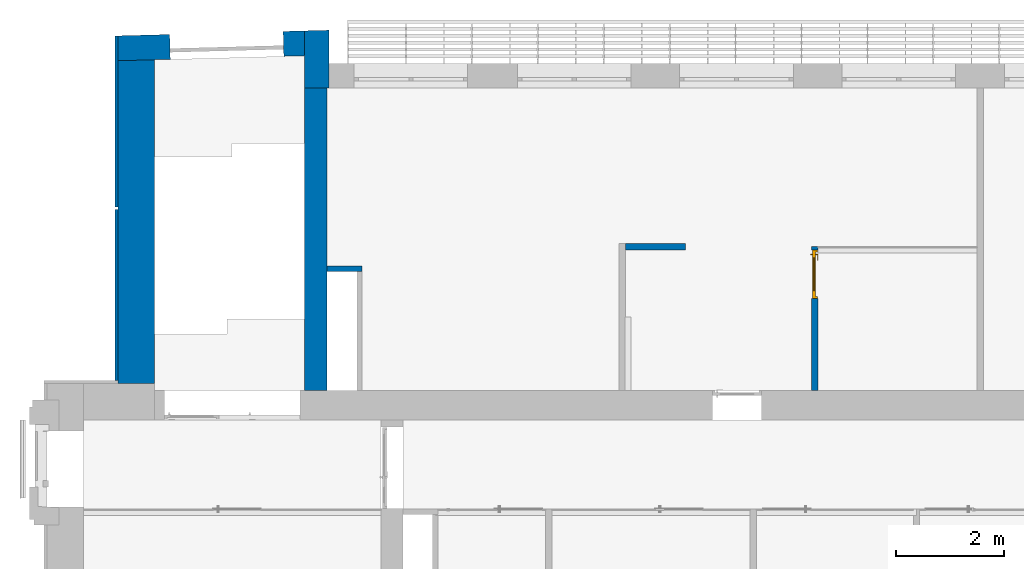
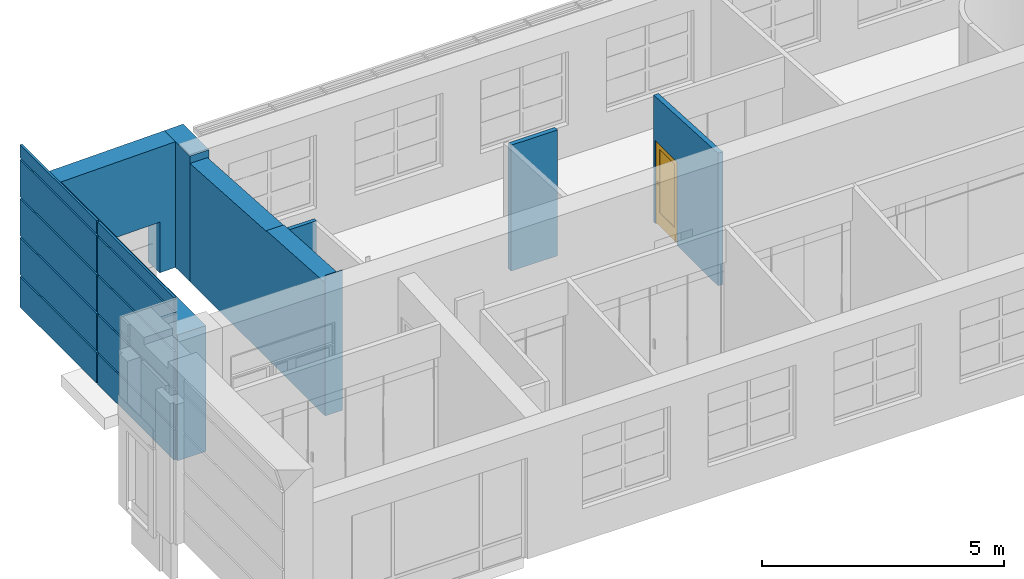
# One storey, part 25 of 46: 8 walls, 1 door, 2 openings.
"""IFC2X3 building model written with IfcOpenShell, lengths in millimetres."""

import ifcopenshell
import ifcopenshell.guid

model = None  # the IFC model being written
_history = None  # IfcOwnerHistory: only IFC2X3 demands one
_inside = {}  # id of a spatial element -> (the spatial element, [elements in it])
_under = {}  # id of a project, library or spatial element -> (it, [spatial elements below it])
_declared = {}  # id of a project -> (the project, [libraries it declares])
_typed = {}  # id of a type object -> (the type object, [elements of that type])
_made_of = {}  # id of a material, layer set ... -> (it, [elements and type objects made of it])


def new_model(schema):
    """Start an empty IFC model of exactly this schema.

    Asked for "IFC4X3", IfcOpenShell would pick the latest addendum, in which some entities
    have other attributes; the version numbers below select the first issue.
    IFC2X3 requires an IfcOwnerHistory on every rooted entity: one is made here for all.
    """
    global model, _history
    if schema == "IFC4X3":
        model = ifcopenshell.file(schema_version=(4, 3, 0, 0))
    else:
        model = ifcopenshell.file(schema=schema)
    _inside.clear()
    _under.clear()
    _declared.clear()
    _typed.clear()
    _made_of.clear()
    _history = None
    if model.schema == "IFC2X3":
        org = make("IfcOrganization", Name="unknown")
        user = make(
            "IfcPersonAndOrganization",
            ThePerson=make("IfcPerson", FamilyName="unknown"),
            TheOrganization=org,
        )
        app = make(
            "IfcApplication",
            ApplicationDeveloper=org,
            Version="unknown",
            ApplicationFullName="unknown",
            ApplicationIdentifier="unknown",
        )
        _history = make(
            "IfcOwnerHistory",
            OwningUser=user,
            OwningApplication=app,
            ChangeAction="ADDED",
            CreationDate=0,
        )
    return model


def make(cls, **values):
    """One entity of the class cls with the attributes given. An attribute that is None is left unset."""
    return model.create_entity(
        cls, **{name: value for name, value in values.items() if value is not None}
    )


def entity(cls, *values):
    """Any entity or typed value of the class cls, its attributes in the order of the schema. None: left unset."""
    e = model.create_entity(cls)
    for i, value in enumerate(values):
        if value is not None:
            e[i] = value
    return e


def rooted(cls, **values):
    """An entity with a GlobalId (a new one), such as an element, a storey or a relation."""
    return make(cls, GlobalId=ifcopenshell.guid.new(), OwnerHistory=_history, **values)


def si_unit(unit_type, name, prefix=None):
    """IfcSIUnit, for example si_unit("LENGTHUNIT", "METRE", prefix="MILLI")."""
    return make("IfcSIUnit", UnitType=unit_type, Prefix=prefix, Name=name)


def converted_unit(unit_type, name, factor, base, dimensions=None, offset=None):
    """IfcConversionBasedUnit, such as the inch: factor (a typed value) times the base unit."""
    return make(
        "IfcConversionBasedUnit"
        if offset is None
        else "IfcConversionBasedUnitWithOffset",
        ConversionOffset=offset,
        Dimensions=None
        if dimensions is None
        else entity("IfcDimensionalExponents", *dimensions),
        UnitType=unit_type,
        Name=name,
        ConversionFactor=make(
            "IfcMeasureWithUnit", ValueComponent=factor, UnitComponent=base
        ),
    )


def derived_unit(unit_type, elements):
    """IfcDerivedUnit: a product of units, each with its exponent."""
    return make(
        "IfcDerivedUnit",
        Elements=[
            make("IfcDerivedUnitElement", Unit=unit, Exponent=power)
            for unit, power in elements
        ],
        UnitType=unit_type,
    )


def assignment(units):
    """IfcUnitAssignment: the units of a project."""
    return None if units is None else make("IfcUnitAssignment", Units=units)


def point(xyz):
    """IfcCartesianPoint."""
    return None if xyz is None else make("IfcCartesianPoint", Coordinates=xyz)


def direction(xyz):
    """IfcDirection."""
    return None if xyz is None else make("IfcDirection", DirectionRatios=xyz)


def frame(location, z_axis=None, x_axis=None):
    """IfcAxis2Placement3D, a coordinate frame: its origin and axes. An axis left out is left unset."""
    return make(
        "IfcAxis2Placement3D",
        Location=point(location),
        Axis=direction(z_axis),
        RefDirection=direction(x_axis),
    )


def frame_2d(location, x_axis=None):
    """IfcAxis2Placement2D, a coordinate frame in the plane: its origin and x axis."""
    return make(
        "IfcAxis2Placement2D", Location=point(location), RefDirection=direction(x_axis)
    )


def origin():
    """The frame at (0, 0, 0) with its axes left unset."""
    return frame((0.0, 0.0, 0.0))


def origin_2d_with_axis():
    """The frame at (0, 0) in the plane with the x axis (1, 0) written out."""
    return frame_2d((0.0, 0.0), x_axis=(1.0, 0.0))


def place(relative_to, where):
    """IfcLocalPlacement: puts the frame where relative to a parent placement (None: the world)."""
    return make(
        "IfcLocalPlacement", PlacementRelTo=relative_to, RelativePlacement=where
    )


def context(
    kind, dimensions, precision=None, world=None, true_north=None, identifier=None
):
    """IfcGeometricRepresentationContext, for example the 3D "Model" context."""
    return make(
        "IfcGeometricRepresentationContext",
        ContextIdentifier=identifier,
        ContextType=kind,
        CoordinateSpaceDimension=dimensions,
        Precision=precision,
        WorldCoordinateSystem=world,
        TrueNorth=true_north,
    )


def subcontext(parent, identifier, kind, view, scale=None):
    """IfcGeometricRepresentationSubContext, for example "Body" below "Model"."""
    return make(
        "IfcGeometricRepresentationSubContext",
        ContextIdentifier=identifier,
        ContextType=kind,
        ParentContext=parent,
        TargetScale=scale,
        TargetView=view,
    )


def project(units=None, contexts=None):
    """IfcProject with its units and contexts."""
    return rooted(
        "IfcProject",
        Name="project",
        RepresentationContexts=contexts,
        UnitsInContext=assignment(units),
    )


def spatial(cls, under=None, at=None, **own):
    """A site, building, storey or space (cls), placed at a placement, below another one or the project."""
    s = rooted(cls, ObjectPlacement=at, **own)
    if under is not None:
        _under.setdefault(under.id(), (under, []))[1].append(s)
    return s


def polyline(points):
    """IfcPolyline through the points."""
    return make("IfcPolyline", Points=[point(p) for p in points])


def profile(cls, at=None, kind="AREA", **sizes):
    """A parametric profile (cls). Its sizes go by their IFC names, for example OverallWidth=200.0."""
    return make(cls, ProfileType=kind, Position=at, **sizes)


def rectangle(**sizes):
    """IfcRectangleProfileDef."""
    return profile("IfcRectangleProfileDef", **sizes)


def outline(outer, holes=None, kind="AREA"):
    """IfcArbitraryClosedProfileDef: a profile drawn as a closed curve; with holes, ...WithVoids."""
    if holes is None:
        return make("IfcArbitraryClosedProfileDef", ProfileType=kind, OuterCurve=outer)
    return make(
        "IfcArbitraryProfileDefWithVoids",
        ProfileType=kind,
        OuterCurve=outer,
        InnerCurves=holes,
    )


def extrude(swept, where, along, depth):
    """IfcExtrudedAreaSolid: the profile swept, set in the frame where, extruded along a direction by depth."""
    return make(
        "IfcExtrudedAreaSolid",
        SweptArea=swept,
        Position=where,
        ExtrudedDirection=direction(along),
        Depth=depth,
    )


def clip(a, b, op="DIFFERENCE"):
    """IfcBooleanClippingResult: the solid a cut by the half space b."""
    return make(
        "IfcBooleanClippingResult", Operator=op, FirstOperand=a, SecondOperand=b
    )


def halfspace(plane, agree):
    """IfcHalfSpaceSolid: all space on one side of the plane z = 0 of the frame plane."""
    return make(
        "IfcHalfSpaceSolid",
        BaseSurface=make("IfcPlane", Position=plane),
        AgreementFlag=agree,
    )


def bounded_halfspace(plane, agree, where, boundary):
    """IfcPolygonalBoundedHalfSpace: a half space limited to a polygon's prism."""
    return make(
        "IfcPolygonalBoundedHalfSpace",
        BaseSurface=make("IfcPlane", Position=plane),
        AgreementFlag=agree,
        Position=where,
        PolygonalBoundary=boundary,
    )


def faces_of(points, faces, orient=None, outer=None):
    """IfcFace entities. A face is a list of loops; a loop is a list of indices into points, from 0.

    orient and outer hold one flag for each loop. By default every Orientation is true, the
    first loop of a face is its IfcFaceOuterBound and the others are IfcFaceBound.
    """
    made = []
    for i, loops in enumerate(faces):
        bounds = []
        for j, loop in enumerate(loops):
            is_outer = j == 0 if outer is None else outer[i][j]
            bounds.append(
                make(
                    "IfcFaceOuterBound" if is_outer else "IfcFaceBound",
                    Bound=make("IfcPolyLoop", Polygon=[points[k] for k in loop]),
                    Orientation=True if orient is None else orient[i][j],
                )
            )
        made.append(make("IfcFace", Bounds=bounds))
    return made


def faceted_brep(points, faces, orient=None, outer=None, voids=None):
    """IfcFacetedBrep: a solid bounded by flat faces; with voids (closed shells), ...WithVoids."""
    shared = [point(p) for p in points]
    hull = make("IfcClosedShell", CfsFaces=faces_of(shared, faces, orient, outer))
    if voids is None:
        return make("IfcFacetedBrep", Outer=hull)
    return make(
        "IfcFacetedBrepWithVoids",
        Outer=hull,
        Voids=[
            make(cls, CfsFaces=faces_of(shared, fs, o, b)) for cls, fs, o, b in voids
        ],
    )


def shape(context_of_items, identifier, shape_type, items):
    """IfcShapeRepresentation: the items that make up one representation, for example the "Body"."""
    return make(
        "IfcShapeRepresentation",
        ContextOfItems=context_of_items,
        RepresentationIdentifier=identifier,
        RepresentationType=shape_type,
        Items=items,
    )


def source(mapping_origin, context_of_items, identifier, shape_type, items):
    """IfcRepresentationMap: a shape defined once, which mapped items show again and again."""
    return make(
        "IfcRepresentationMap",
        MappingOrigin=mapping_origin,
        MappedRepresentation=shape(context_of_items, identifier, shape_type, items),
    )


def transform(
    local_origin,
    x_axis=None,
    y_axis=None,
    z_axis=None,
    scale=None,
    scale2=None,
    scale3=None,
    uniform=True,
):
    """IfcCartesianTransformationOperator3D, or its non-uniform kind. x_axis, y_axis, z_axis: its Axis1, 2, 3."""
    if uniform:
        return make(
            "IfcCartesianTransformationOperator3D",
            Axis1=direction(x_axis),
            Axis2=direction(y_axis),
            LocalOrigin=point(local_origin),
            Scale=scale,
            Axis3=direction(z_axis),
        )
    return make(
        "IfcCartesianTransformationOperator3DnonUniform",
        Axis1=direction(x_axis),
        Axis2=direction(y_axis),
        LocalOrigin=point(local_origin),
        Scale=scale,
        Axis3=direction(z_axis),
        Scale2=scale2,
        Scale3=scale3,
    )


def mapped(mapping_source, mapping_target):
    """IfcMappedItem: shows the shape of a source again, moved by a transform."""
    return make(
        "IfcMappedItem", MappingSource=mapping_source, MappingTarget=mapping_target
    )


def material(Name=None, Category=None):
    """IfcMaterial."""
    return make("IfcMaterial", Name=Name, Category=Category)


def material_list(materials):
    """IfcMaterialList."""
    return make("IfcMaterialList", Materials=materials)


def layer(
    of_material, thickness, ventilated=None, Name=None, Category=None, Priority=None
):
    """IfcMaterialLayer: one layer of a wall or slab, of a material (None: an air gap)."""
    return make(
        "IfcMaterialLayer",
        Material=of_material,
        LayerThickness=thickness,
        IsVentilated=ventilated,
        Name=Name,
        Category=Category,
        Priority=Priority,
    )


def layer_set(layers, Name=None):
    """IfcMaterialLayerSet."""
    return make("IfcMaterialLayerSet", MaterialLayers=layers, LayerSetName=Name)


def layer_usage(for_layer_set, set_direction, sense, offset, extent=None):
    """IfcMaterialLayerSetUsage: how a layer set lies in its element."""
    return make(
        "IfcMaterialLayerSetUsage",
        ForLayerSet=for_layer_set,
        LayerSetDirection=set_direction,
        DirectionSense=sense,
        OffsetFromReferenceLine=offset,
        ReferenceExtent=extent,
    )


def made_of(thing, what):
    """Note that an element or type object is made of a material, layer set ...; save() writes the relation."""
    if what is not None:
        _made_of.setdefault(what.id(), (what, []))[1].append(thing)
    return thing


def type_object(cls, material=None, **own):
    """A type object (cls), such as IfcWallType, which elements share."""
    return made_of(rooted(cls, **own), material)


def type_shapes(of_type, sources):
    """Give a type object the sources (RepresentationMaps) that its elements show as mapped items."""
    of_type.RepresentationMaps = sources


def element(
    cls,
    number,
    at=None,
    inside=None,
    cuts=None,
    type_object=None,
    material=None,
    context=None,
    identifier="Body",
    shape_type=None,
    held_by="IfcProductDefinitionShape",
    body=None,
    shapes=None,
    **own,
):
    """One element of the class cls, such as IfcWall. Its Tag is "e" and its number.

    at: its placement. inside: the storey or other place that contains it. cuts: it is an
    opening in that element (IfcRelVoidsElement). A single representation is given by context,
    identifier, shape_type and body (its items); several are given by shapes. held_by: the class
    of the entity that holds the representations. save() writes the other relations.
    """
    e = rooted(cls, Tag="e%d" % number, ObjectPlacement=at, **own)
    if body is not None:
        shapes = [shape(context, identifier, shape_type, body)]
    if shapes is not None:
        e.Representation = make(held_by, Representations=shapes)
    if inside is not None:
        _inside.setdefault(inside.id(), (inside, []))[1].append(e)
    if cuts is not None:
        rooted(
            "IfcRelVoidsElement", RelatingBuildingElement=cuts, RelatedOpeningElement=e
        )
    if type_object is not None:
        _typed.setdefault(type_object.id(), (type_object, []))[1].append(e)
    return made_of(e, material)


def fill(opening, filler):
    """IfcRelFillsElement: the door or window that sits in an opening."""
    return rooted(
        "IfcRelFillsElement",
        RelatingOpeningElement=opening,
        RelatedBuildingElement=filler,
    )


def aggregate(whole, parts):
    """IfcRelAggregates: a whole, such as a stair, and the parts it consists of."""
    return rooted("IfcRelAggregates", RelatingObject=whole, RelatedObjects=parts)


def save(model, path):
    """Write the relations noted so far, then the file.

    IfcRelAggregates (storeys below a building ...), IfcRelContainedInSpatialStructure (elements
    in a storey), IfcRelDefinesByType, IfcRelAssociatesMaterial and IfcRelDeclares: one each for
    every whole, place, type object, material and project.
    """
    for whole, parts in _under.values():
        aggregate(whole, parts)
    for where, things in _inside.values():
        rooted(
            "IfcRelContainedInSpatialStructure",
            RelatedElements=things,
            RelatingStructure=where,
        )
    for kind, things in _typed.values():
        rooted("IfcRelDefinesByType", RelatedObjects=things, RelatingType=kind)
    for what, things in _made_of.values():
        rooted("IfcRelAssociatesMaterial", RelatedObjects=things, RelatingMaterial=what)
    for by, libraries in _declared.values():
        rooted("IfcRelDeclares", RelatingContext=by, RelatedDefinitions=libraries)
    model.write(path)


model = new_model("IFC2X3")

# Units and contexts
model_context = context("Model", 3, precision=0.01, world=origin(), true_north=direction((6.12303176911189e-17, 1.0)))
body_context = subcontext(model_context, "Body", "Model", "MODEL_VIEW")
ifc_project = project(units=[si_unit("LENGTHUNIT", "METRE", prefix="MILLI"), si_unit("AREAUNIT", "SQUARE_METRE"), si_unit("VOLUMEUNIT", "CUBIC_METRE"), converted_unit("PLANEANGLEUNIT", "DEGREE", entity("IfcRatioMeasure", 0.0174532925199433), si_unit("PLANEANGLEUNIT", "RADIAN"), dimensions=[0, 0, 0, 0, 0, 0, 0]), si_unit("MASSUNIT", "GRAM", prefix="KILO"), derived_unit("MASSDENSITYUNIT", [(si_unit("MASSUNIT", "GRAM", prefix="KILO"), 1), (si_unit("LENGTHUNIT", "METRE"), -3)]), si_unit("TIMEUNIT", "SECOND"), si_unit("FREQUENCYUNIT", "HERTZ"), si_unit("THERMODYNAMICTEMPERATUREUNIT", "DEGREE_CELSIUS"), derived_unit("THERMALTRANSMITTANCEUNIT", [(si_unit("MASSUNIT", "GRAM", prefix="KILO"), 1), (si_unit("THERMODYNAMICTEMPERATUREUNIT", "KELVIN"), -1), (si_unit("TIMEUNIT", "SECOND"), -3)]), derived_unit("VOLUMETRICFLOWRATEUNIT", [(si_unit("LENGTHUNIT", "METRE"), 3), (si_unit("TIMEUNIT", "SECOND"), -1)]), si_unit("ELECTRICCURRENTUNIT", "AMPERE"), si_unit("ELECTRICVOLTAGEUNIT", "VOLT"), si_unit("POWERUNIT", "WATT"), si_unit("FORCEUNIT", "NEWTON", prefix="KILO"), si_unit("ILLUMINANCEUNIT", "LUX"), si_unit("LUMINOUSFLUXUNIT", "LUMEN"), si_unit("LUMINOUSINTENSITYUNIT", "CANDELA"), derived_unit("USERDEFINED", [(si_unit("MASSUNIT", "GRAM", prefix="KILO"), -1), (si_unit("LENGTHUNIT", "METRE"), -2), (si_unit("TIMEUNIT", "SECOND"), 3), (si_unit("LUMINOUSFLUXUNIT", "LUMEN"), 1)]), derived_unit("LINEARVELOCITYUNIT", [(si_unit("LENGTHUNIT", "METRE"), 1), (si_unit("TIMEUNIT", "SECOND"), -1)]), si_unit("PRESSUREUNIT", "PASCAL"), derived_unit("USERDEFINED", [(si_unit("LENGTHUNIT", "METRE"), -2), (si_unit("MASSUNIT", "GRAM", prefix="KILO"), 1), (si_unit("TIMEUNIT", "SECOND"), -2)])], contexts=[model_context])

# Site, building, storey
site_placement = place(None, frame((-151.875543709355, 2715.0, 0.0)))
site = spatial("IfcSite", under=ifc_project, at=site_placement, Name="Surface", CompositionType="ELEMENT")
building_placement = place(site_placement, origin())
building = spatial("IfcBuilding", under=site, at=building_placement, CompositionType="ELEMENT")
storey_placement = place(building_placement, frame((0.0, 0.0, 10060.0)))
storey = spatial("IfcBuildingStorey", under=building, at=storey_placement, Name="4 korrus", CompositionType="ELEMENT", Elevation=10060.0000000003)

# Wall
ifc_material_1 = material(Name="__Kips GN13_tava")
ifc_layer_1 = layer(ifc_material_1, 20.0)
ifc_material_2 = material(Name="Brick, Common")
ifc_layer_2 = layer(ifc_material_2, 380.0)
ifc_layer_3 = layer(ifc_material_1, 20.0)
ifc_layer_set_1 = layer_set([ifc_layer_1, ifc_layer_2, ifc_layer_3], Name="Basic Wall:SS-1_420mm")
ifc_layer_usage_1 = layer_usage(ifc_layer_set_1, "AXIS2", "NEGATIVE", 210.0)
wall_type_1 = type_object("IfcWallType", Name="Basic Wall:SS-1_420mm", PredefinedType="STANDARD", material=ifc_layer_set_1)
wall_1_placement = place(storey_placement, frame((4750.87292934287, 12150.0, 0.0), z_axis=(0.0, 0.0, 1.0), x_axis=(0.0, -1.0, 0.0)))
element("IfcWallStandardCase", 1, at=wall_1_placement, inside=storey, type_object=wall_type_1, material=ifc_layer_usage_1, Name="SEIN - 005", ObjectType="Basic Wall:SS-1_420mm", context=body_context, shape_type="Clipping", body=[
    clip(clip(extrude(rectangle(XDim=5590.0, YDim=419.999999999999, at=frame_2d((2795.0, -2.27373675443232e-13), x_axis=(-1.0, 0.0))), origin(), (0.0, 0.0, 1.0), 3540.0), bounded_halfspace(frame((0.0, -210.0, 2988.23263053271), z_axis=(-0.0638356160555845, 0.0, 0.997960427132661), x_axis=(0.0, -1.0, 0.0)), False, frame((0.0, -210.0, 2988.23263053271)), polyline([(0.0, 0.0), (3160.0, 0.0), (3160.0, 420.0), (0.0, 420.0), (0.0, 0.0)]))), bounded_halfspace(frame((3160.0, -210.0, 3207.89214529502), z_axis=(-0.0638356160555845, 0.0, 0.997960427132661), x_axis=(0.0, -1.0, 0.0)), False, frame((3160.0, -210.0, 3207.89214529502)), polyline([(0.0, 0.0), (2416.04772067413, 0.0), (2416.04772067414, 420.0), (230.0, 420.0), (0.0, 420.0), (0.0, 0.0)]))),
])

# Wall, opening
ifc_layer_4 = layer(ifc_material_2, 440.0)
ifc_layer_5 = layer(ifc_material_1, 20.0)
ifc_layer_set_2 = layer_set([ifc_layer_4, ifc_layer_5], Name="Basic Wall:VS-1")
ifc_layer_usage_2 = layer_usage(ifc_layer_set_2, "AXIS2", "NEGATIVE", 230.0)
wall_type_2 = type_object("IfcWallType", Name="Basic Wall:VS-1", PredefinedType="STANDARD", material=ifc_layer_set_2)
wall_2_placement = place(storey_placement, frame((1084.82025900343, 12886.4674488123, 0.0), z_axis=(0.0, 0.0, 1.0), x_axis=(0.999638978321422, 0.0268684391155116, 0.0)))
wall_2 = element("IfcWallStandardCase", 2, at=wall_2_placement, inside=storey, type_object=wall_type_2, material=ifc_layer_usage_2, Name="SEIN - 004", ObjectType="Basic Wall:VS-1", context=body_context, shape_type="SweptSolid", body=[
    extrude(outline(polyline([(0.0, -230.0), (679.245222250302, -230.0), (3450.32003918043, -230.0), (3462.68398482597, 230.0), (12.363945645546, 230.0), (0.0, -230.0)])), origin(), (0.0, 0.0, 1.0), 3173.94120006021),
])
opening_1_placement = place(wall_2_placement, frame((-1430.66788143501, -12852.6677276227, 0.0), z_axis=(0.0, 0.0, 1.0), x_axis=(0.999638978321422, -0.0268684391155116, 0.0)))
element("IfcOpeningElement", 3, at=opening_1_placement, cuts=wall_2, Name="SEIN - 004", ObjectType="Opening", context=body_context, shape_type="SweptSolid", body=[
    extrude(rectangle(XDim=1850.0, YDim=2100.0, at=frame_2d((0.0, 1.13686837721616e-13), x_axis=(1.0, 0.0))), frame((3124.83901111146, 12245.1480382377, 356.01247787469), z_axis=(-0.0268684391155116, 0.999638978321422, 0.0), x_axis=(0.0, 0.0, -1.0)), (0.0, 0.0, 1.0), 1393.8),
])

# Walls
ifc_layer_usage_3 = layer_usage(ifc_layer_set_2, "AXIS2", "NEGATIVE", 230.0)
wall_3_placement = place(storey_placement, frame((4770.07439884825, 13221.7852732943, 0.0), z_axis=(0.0, 0.0, 1.0), x_axis=(0.0, -1.0, 0.0)))
element("IfcWallStandardCase", 4, at=wall_3_placement, inside=storey, type_object=wall_type_2, material=ifc_layer_usage_3, Name="SEIN - 003", ObjectType="Basic Wall:VS-1", context=body_context, shape_type="SweptSolid", body=[
    extrude(outline(polyline([(1071.7852732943, -230.0), (1071.7852732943, 230.0), (611.785273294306, 230.0), (0.0, 230.0), (12.3639456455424, -230.0), (472.530075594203, -230.0), (1071.7852732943, -230.0)])), origin(), (0.0, 0.0, 1.0), 3173.94120006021),
])
ifc_material_3 = material(Name="__Tuuletõkkeplaat")
ifc_layer_6 = layer(ifc_material_3, 9.0)
ifc_material_4 = material(Name="__Soojustus EPS")
ifc_layer_7 = layer(ifc_material_4, 200.0)
ifc_layer_8 = layer(ifc_material_2, 450.0)
ifc_layer_9 = layer(ifc_material_1, 20.0)
ifc_layer_set_3 = layer_set([ifc_layer_6, ifc_layer_7, ifc_layer_8, ifc_layer_9], Name="Basic Wall:VS-2_olemasolev sein fassaadikassettidega")
ifc_layer_usage_4 = layer_usage(ifc_layer_set_3, "AXIS2", "NEGATIVE", 339.5)
wall_type_3 = type_object("IfcWallType", Name="Basic Wall:VS-2_olemasolev sein fassaadikassettidega", PredefinedType="STANDARD", material=ifc_layer_set_3)
wall_4_placement = place(storey_placement, frame((1430.5, 6689.0, 0.0), z_axis=(0.0, 0.0, 1.0), x_axis=(0.0, 1.0, 0.0)))
element("IfcWallStandardCase", 5, at=wall_4_placement, inside=storey, type_object=wall_type_3, material=ifc_layer_usage_4, Name="SEIN - 003", ObjectType="Basic Wall:VS-2_olemasolev sein fassaadikassettidega", context=body_context, shape_type="SweptSolid", body=[
    extrude(outline(polyline([(5985.80074269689, -339.5), (5967.55048379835, 339.5), (0.0, 339.5), (0.0, -339.5), (5985.80074269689, -339.5)])), origin(), (0.0, 0.0, 1.0), 3173.94120006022),
])
ifc_layer_10 = layer(ifc_material_1, 12.5)
ifc_layer_11 = layer(ifc_material_1, 12.5)
ifc_layer_12 = layer(ifc_material_4, 66.0)
ifc_layer_13 = layer(ifc_material_1, 12.5)
ifc_layer_14 = layer(ifc_material_1, 12.5)
ifc_layer_set_4 = layer_set([ifc_layer_10, ifc_layer_11, ifc_layer_12, ifc_layer_13, ifc_layer_14], Name="Basic Wall:SS-3_Kipssein tava ruumide vahel")
ifc_layer_usage_5 = layer_usage(ifc_layer_set_4, "AXIS2", "NEGATIVE", 58.0)
wall_type_4 = type_object("IfcWallType", Name="Basic Wall:SS-3_Kipssein tava ruumide vahel", PredefinedType="STANDARD", material=ifc_layer_set_4)
wall_5_placement = place(storey_placement, frame((10480.666775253, 9218.0, 0.0)))
element("IfcWallStandardCase", 6, at=wall_5_placement, inside=storey, type_object=wall_type_4, material=ifc_layer_usage_5, Name="Basic Wall:SS-3_Kipssein tava ruumide vahel", ObjectType="Basic Wall:SS-3_Kipssein tava ruumide vahel", context=body_context, shape_type="Clipping", body=[
    clip(extrude(rectangle(XDim=1112.98220787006, YDim=116.0, at=frame_2d((556.491103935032, -2.70006239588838e-13), x_axis=(-1.0, 0.0))), origin(), (0.0, 0.0, 1.0), 3179.49120834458), bounded_halfspace(frame((0.0, -58.0, 3179.49120834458), z_axis=(0.0, 0.0638356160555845, 0.997960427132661), x_axis=(-1.0, 0.0, 0.0)), False, frame((0.0, -58.0, 3179.49120834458)), polyline([(0.0, 0.0), (1112.98220787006, 0.0), (1112.98220787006, 116.0), (0.0, 116.0), (0.0, 0.0)]))),
])

# Wall, opening, door
ifc_layer_usage_6 = layer_usage(ifc_layer_set_4, "AXIS2", "NEGATIVE", 58.0)
wall_6_placement = place(storey_placement, frame((13980.8820086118, 6560.0, 0.0), z_axis=(0.0, 0.0, 1.0), x_axis=(0.0, 1.0, 0.0)))
wall_6 = element("IfcWallStandardCase", 7, at=wall_6_placement, inside=storey, type_object=wall_type_4, material=ifc_layer_usage_6, Name="Basic Wall:SS-3_Kipssein tava ruumide vahel", ObjectType="Basic Wall:SS-3_Kipssein tava ruumide vahel", context=body_context, shape_type="Clipping", body=[
    clip(extrude(rectangle(XDim=2660.0011570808, YDim=116.0, at=frame_2d((1330.0005785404, -1.98951966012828e-13), x_axis=(-1.0, 0.0))), origin(), (0.0, 0.0, 1.0), 3348.6630901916), halfspace(frame((0.0, -58.0, 3348.6630901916), z_axis=(0.0534891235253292, 0.0, 0.998568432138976), x_axis=(0.0, 1.0, 0.0)), False)),
])
opening_2_placement = place(wall_6_placement, frame((1700.0011570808, -58.0, 0.0)))
opening_2 = element("IfcOpeningElement", 8, at=opening_2_placement, cuts=wall_6, Name="Ühepoolsed:SU-02:1", ObjectType="Opening", context=body_context, shape_type="SweptSolid", body=[
    extrude(rectangle(XDim=2099.99999999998, YDim=900.0, at=frame_2d((1049.99999999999, 450.0), x_axis=(1.0, 0.0))), frame((0.0, 0.0, 0.0), z_axis=(0.0, 1.0, 0.0), x_axis=(0.0, 0.0, 1.0)), (0.0, 0.0, 1.0), 116.0),
])
ifc_material_5 = material(Name="_Alumiiniumprofiil - must")
ifc_material_6 = material(Name="__Uks_hele tamm")
ifc_material_7 = material(Name="Glass")
ifc_material_list_1 = material_list([ifc_material_5, ifc_material_6, ifc_material_7])
ifc_material_list_2 = material_list([ifc_material_5, ifc_material_6, ifc_material_7])
door_style = type_object("IfcDoorStyle", Name="SU-02", ConstructionType="NOTDEFINED", OperationType="FOLDING_TO_LEFT", ParameterTakesPrecedence=False, Sizeable=False, material=ifc_material_list_2)
shared_shape = source(origin(), body_context, "Body", "Brep", [
    faceted_brep([(800.0, 6.0, 1112.5), (705.0, 6.0, 1112.5), (705.0, 1.0, 1112.5), (825.0, 1.0, 1112.5), (825.0, 44.0, 1112.5), (800.0, 44.0, 1112.5), (800.0, 6.0, 1087.5), (800.0, 44.0, 1087.5), (825.0, 44.0, 1087.5), (825.0, 1.0, 1087.5), (705.0, 1.0, 1087.5), (705.0, 6.0, 1087.5)], [[[0, 1, 2, 3, 4, 5]], [[6, 7, 8, 9, 10, 11]], [[5, 7, 6, 0]], [[4, 8, 7, 5]], [[3, 9, 8, 4]], [[2, 10, 9, 3]], [[1, 11, 10, 2]], [[0, 6, 11, 1]]]),
    faceted_brep([(787.500000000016, 44.0, 1137.5), (837.500000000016, 44.0, 1137.5), (837.500000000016, 46.0, 1137.5), (787.500000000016, 46.0, 1137.5), (787.500000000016, 44.0, 1017.5), (787.500000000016, 46.0, 1017.5), (837.500000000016, 46.0, 1017.5), (837.500000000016, 44.0, 1017.5)], [[[0, 1, 2, 3]], [[4, 5, 6, 7]], [[3, 5, 4, 0]], [[2, 6, 5, 3]], [[1, 7, 6, 2]], [[0, 4, 7, 1]]]),
    faceted_brep([(800.0, 136.0, 1112.5), (800.0, 98.0, 1112.5), (825.0, 98.0, 1112.5), (825.0, 141.0, 1112.5), (705.0, 141.0, 1112.5), (705.0, 136.0, 1112.5), (800.0, 136.0, 1087.5), (705.0, 136.0, 1087.5), (705.0, 141.0, 1087.5), (825.0, 141.0, 1087.5), (825.0, 98.0, 1087.5), (800.0, 98.0, 1087.5)], [[[0, 1, 2, 3, 4, 5]], [[6, 7, 8, 9, 10, 11]], [[1, 0, 6, 11]], [[2, 1, 11, 10]], [[3, 2, 10, 9]], [[4, 3, 9, 8]], [[5, 4, 8, 7]], [[0, 5, 7, 6]]]),
    faceted_brep([(787.500000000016, 98.0, 1137.5), (787.500000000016, 96.0, 1137.5), (837.500000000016, 96.0, 1137.5), (837.500000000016, 98.0, 1137.5), (787.500000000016, 98.0, 1017.5), (837.500000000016, 98.0, 1017.5), (837.500000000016, 96.0, 1017.5), (787.500000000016, 96.0, 1017.5)], [[[0, 1, 2, 3]], [[4, 5, 6, 7]], [[1, 0, 4, 7]], [[2, 1, 7, 6]], [[3, 2, 6, 5]], [[0, 3, 5, 4]]]),
    faceted_brep([(0.0, 6.0, 0.0), (0.0, 96.0, 0.0), (25.0, 96.0, 0.0), (25.0, 46.0, 0.0), (40.0, 46.0, 0.0), (40.0, 6.0, 0.0), (40.0, 6.0, 2060.0), (860.0, 6.0, 2060.0), (860.0, 6.0, 0.0), (900.0, 6.0, 0.0), (900.0, 6.0, 2100.0), (0.0, 6.0, 2100.0), (40.0, 46.0, 2060.0), (25.0, 46.0, 2075.0), (875.0, 46.0, 2075.0), (875.0, 46.0, 0.0), (860.0, 46.0, 0.0), (860.0, 46.0, 2060.0), (25.0, 96.0, 2075.0), (0.0, 96.0, 2100.0), (900.0, 96.0, 2100.0), (900.0, 96.0, 0.0), (875.0, 96.0, 0.0), (875.0, 96.0, 2075.0)], [[[0, 1, 2, 3, 4, 5]], [[5, 6, 7, 8, 9, 10, 11, 0]], [[4, 12, 6, 5]], [[3, 13, 14, 15, 16, 17, 12, 4]], [[2, 18, 13, 3]], [[1, 19, 20, 21, 22, 23, 18, 2]], [[0, 11, 19, 1]], [[9, 21, 20, 10]], [[8, 16, 15, 22, 21, 9]], [[7, 17, 16, 8]], [[14, 23, 22, 15]], [[6, 12, 17, 7]], [[13, 18, 23, 14]], [[10, 20, 19, 11]]]),
    faceted_brep([(140.0, 61.0, 350.0), (760.0, 61.0, 350.0), (760.0, 61.0, 1960.0), (140.0, 61.0, 1960.0), (140.0, 81.0, 350.0), (140.0, 81.0, 1960.0), (760.0, 81.0, 1960.0), (760.0, 81.0, 350.0)], [[[0, 1, 2, 3]], [[4, 5, 6, 7]], [[3, 5, 4, 0]], [[2, 6, 5, 3]], [[1, 7, 6, 2]], [[0, 4, 7, 1]]]),
    faceted_brep([(25.0, 46.0, 20.0), (875.0, 46.0, 20.0), (875.0, 46.0, 2075.0), (25.0, 46.0, 2075.0), (760.0, 46.0, 350.0), (140.0, 46.0, 350.0), (140.0, 46.0, 1960.0), (760.0, 46.0, 1960.0), (25.0, 96.0, 20.0), (25.0, 96.0, 2075.0), (875.0, 96.0, 2075.0), (875.0, 96.0, 20.0), (760.0, 96.0, 1960.0), (140.0, 96.0, 1960.0), (140.0, 96.0, 350.0), (760.0, 96.0, 350.0)], [[[0, 1, 2, 3], [4, 5, 6, 7]], [[8, 9, 10, 11], [12, 13, 14, 15]], [[3, 9, 8, 0]], [[2, 10, 9, 3]], [[1, 11, 10, 2]], [[0, 8, 11, 1]], [[12, 15, 4, 7]], [[15, 14, 5, 4]], [[14, 13, 6, 5]], [[7, 6, 13, 12]]]),
])
type_shapes(door_style, [shared_shape])
door_placement = place(opening_2_placement, origin())
door = element("IfcDoor", 9, at=door_placement, inside=storey, type_object=door_style, material=ifc_material_list_1, Name="Ühepoolsed:SU-02", ObjectType="SU-02", OverallHeight=2099.99999999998, OverallWidth=900.0, context=body_context, shape_type="MappedRepresentation", body=[
    mapped(shared_shape, transform((0.0, 0.0, 0.0), scale=1.0)),
])
fill(opening_2, door)

# Walls
ifc_material_8 = material(Name="__Helehall")
ifc_layer_15 = layer(ifc_material_8, 10.0)
ifc_material_9 = material(Name="__Kergblokk")
ifc_layer_16 = layer(ifc_material_9, 90.0)
ifc_layer_set_5 = layer_set([ifc_layer_15, ifc_layer_16], Name="Basic Wall:SS-6_Šahti sein EI-60")
ifc_layer_usage_7 = layer_usage(ifc_layer_set_5, "AXIS2", "NEGATIVE", 50.0)
wall_type_5 = type_object("IfcWallType", Name="Basic Wall:SS-6_Šahti sein EI-60", PredefinedType="STANDARD", material=ifc_layer_set_5)
wall_7_placement = place(storey_placement, frame((4960.87292934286, 8810.0, 0.0)))
element("IfcWallStandardCase", 10, at=wall_7_placement, inside=storey, type_object=wall_type_5, material=ifc_layer_usage_7, Name="Basic Wall:SS-6_Šahti sein EI-60", ObjectType="Basic Wall:SS-6_Šahti sein EI-60", context=body_context, shape_type="Clipping", body=[
    clip(extrude(rectangle(XDim=649.890086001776, YDim=99.9999999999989, at=frame_2d((324.945043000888, 1.63424829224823e-13), x_axis=(-1.0, 0.0))), origin(), (0.0, 0.0, 1.0), 3222.60434358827), bounded_halfspace(frame((0.0, -50.0, 3222.60434358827), z_axis=(0.0, 0.0638356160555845, 0.997960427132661), x_axis=(-1.0, 0.0, 0.0)), False, frame((0.0, -50.0, 3222.60434358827)), polyline([(0.0, 0.0), (549.890086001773, 0.0), (649.890086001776, 0.0), (649.890086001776, 100.0), (0.0, 100.0), (0.0, 0.0)]))),
])
ifc_material_10 = material(Name="Steel/Aluminium")
wall_type_6 = type_object("IfcWallType", Name="fassaad9:fassaad9", PredefinedType="NOTDEFINED", material=ifc_material_10)
wall_8_placement = place(storey_placement, frame((1041.0, 6741.71661374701, 0.0), z_axis=(0.0, 0.0, 1.0), x_axis=(0.0, 1.0, 0.0)))
element("IfcWall", 11, at=wall_8_placement, inside=storey, type_object=wall_type_6, material=ifc_material_10, Name="fassaad9:fassaad9", ObjectType="fassaad9:fassaad9", context=body_context, shape_type="SweptSolid", body=[
    extrude(rectangle(XDim=50.0, YDim=3162.5, at=origin_2d_with_axis()), frame((4793.75, -25.0, 0.0), z_axis=(0.0, 0.0, 1.0), x_axis=(0.0, -1.0, 0.0)), (0.0, 0.0, 1.0), 770.115269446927),
    extrude(rectangle(XDim=50.0, YDim=3162.50000000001, at=origin_2d_with_axis()), frame((1581.25, -25.0, 0.0), z_axis=(0.0, 0.0, 1.0), x_axis=(0.0, -1.0, 0.0)), (0.0, 0.0, 1.0), 770.115269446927),
    extrude(rectangle(XDim=50.0, YDim=3162.5, at=frame_2d((0.0, 1.13686837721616e-12), x_axis=(1.0, 0.0))), frame((1581.25, -25.0, 820.115269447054), z_axis=(0.0, 0.0, 1.0), x_axis=(0.0, -1.0, 0.0)), (0.0, 0.0, 1.0), 934.999999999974),
    extrude(rectangle(XDim=50.0, YDim=3162.5, at=origin_2d_with_axis()), frame((4793.75, -25.0, 2790.11526944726), z_axis=(0.0, 0.0, 1.0), x_axis=(0.0, -1.0, 0.0)), (0.0, 0.0, 1.0), 934.999999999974),
    extrude(rectangle(XDim=50.0, YDim=3162.5, at=frame_2d((1.36779476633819e-13, 0.0), x_axis=(1.0, 0.0))), frame((1581.25, -25.0, 2790.11526944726), z_axis=(0.0, 0.0, 1.0), x_axis=(0.0, -1.0, 0.0)), (0.0, 0.0, 1.0), 934.999999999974),
    extrude(rectangle(XDim=50.0, YDim=3162.5, at=frame_2d((-6.92779167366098e-14, 0.0), x_axis=(1.0, 0.0))), frame((4793.75, -25.0, 3775.11526944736), z_axis=(0.0, 0.0, 1.0), x_axis=(0.0, -1.0, 0.0)), (0.0, 0.0, 1.0), 324.884730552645),
    extrude(rectangle(XDim=50.0, YDim=3162.5, at=frame_2d((0.0, -1.13686837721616e-12), x_axis=(1.0, 0.0))), frame((1581.25, -25.0, 3775.11526944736), z_axis=(0.0, 0.0, 1.0), x_axis=(0.0, -1.0, 0.0)), (0.0, 0.0, 1.0), 324.884730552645),
    extrude(rectangle(XDim=50.0, YDim=3162.5, at=frame_2d((0.0, 1.02318153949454e-12), x_axis=(1.0, 0.0))), frame((4793.75, -25.0, 820.115269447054), z_axis=(0.0, 0.0, 1.0), x_axis=(0.0, -1.0, 0.0)), (0.0, 0.0, 1.0), 934.999999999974),
    extrude(rectangle(XDim=50.0, YDim=3162.5, at=frame_2d((-6.92779167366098e-14, 0.0), x_axis=(1.0, 0.0))), frame((1581.25, -25.0, 1805.11526944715), z_axis=(0.0, 0.0, 1.0), x_axis=(0.0, -1.0, 0.0)), (0.0, 0.0, 1.0), 934.999999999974),
    extrude(rectangle(XDim=50.0, YDim=3162.5, at=frame_2d((-6.92779167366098e-14, 1.02318153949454e-12), x_axis=(1.0, 0.0))), frame((4793.75, -25.0, 1805.11526944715), z_axis=(0.0, 0.0, 1.0), x_axis=(0.0, -1.0, 0.0)), (0.0, 0.0, 1.0), 934.999999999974),
])

save(model, "model.ifc")
